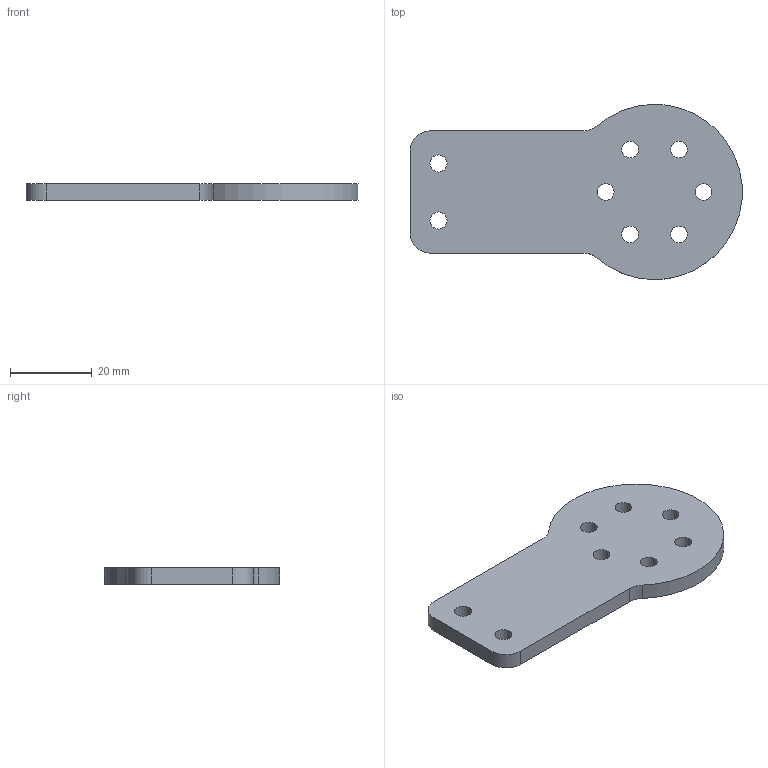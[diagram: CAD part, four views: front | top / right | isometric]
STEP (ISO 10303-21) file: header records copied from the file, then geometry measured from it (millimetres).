
FILE_DESCRIPTION (( 'STEP AP203' ), '1' );
FILE_NAME ('大腿电机出轴连接件.STEP', '2026-07-29T04:07:39', ( '' ), ( '' ), 'SwSTEP 2.0', 'SolidWorks 2025', '' );
FILE_SCHEMA (( 'CONFIG_CONTROL_DESIGN' ));
Length unit declared in the file: millimetre
Products named in the file (1): 大腿电机出轴连接件
Bounding box: 81.42 x 42.97 x 4 mm (x, y, z)
Volume: 10189.9 mm3; surface area: 6375.3 mm2
Topology: 1 solids, 1 shells, 26 faces, 72 edges, 48 vertices
Faces by surface type: cylinder 21, plane 5
Entity records: 967 total; most frequent: DIRECTION 168, CARTESIAN_POINT 147, ORIENTED_EDGE 144, EDGE_CURVE 72, AXIS2_PLACEMENT_3D 69, VERTEX_POINT 48, CIRCLE 42, EDGE_LOOP 42
